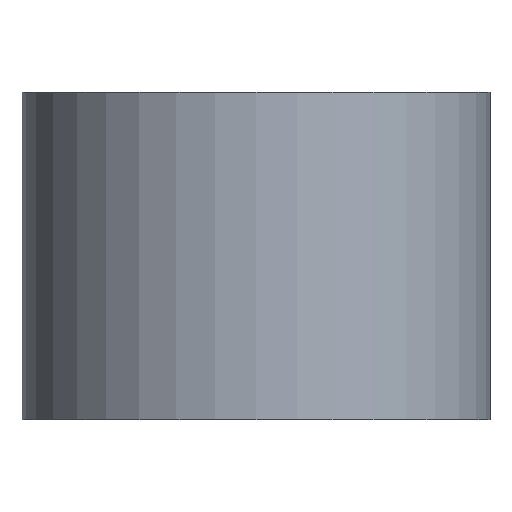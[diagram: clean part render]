
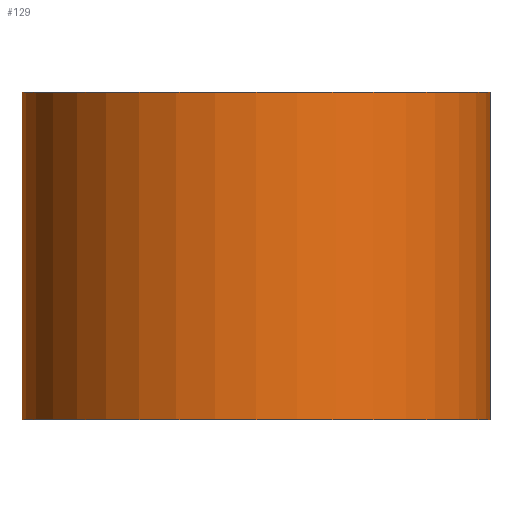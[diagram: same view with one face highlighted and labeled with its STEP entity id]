
A CAD part, front view. The second image highlights one B-rep face of the part: STEP entity #129.
In plain terms, the highlighted cylindrical face has radius 25 mm (diameter 50 mm), a partial arc.
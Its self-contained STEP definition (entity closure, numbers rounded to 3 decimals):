
#102=CYLINDRICAL_SURFACE('',#250,25.);
#108=FACE_OUTER_BOUND('',#150,.T.);
#113=LINE('',#337,#119);
#114=LINE('',#338,#120);
#119=VECTOR('',#295,1.);
#120=VECTOR('',#296,1.);
#129=ADVANCED_FACE('',(#108),#102,.T.);
#150=EDGE_LOOP('',(#183,#184,#185,#186));
#183=ORIENTED_EDGE('',*,*,#215,.F.);
#184=ORIENTED_EDGE('',*,*,#214,.T.);
#185=ORIENTED_EDGE('',*,*,#216,.T.);
#186=ORIENTED_EDGE('',*,*,#199,.F.);
#187=VERTEX_POINT('',#303);
#188=VERTEX_POINT('',#304);
#197=VERTEX_POINT('',#333);
#198=VERTEX_POINT('',#334);
#199=EDGE_CURVE('',#187,#188,#217,.T.);
#214=EDGE_CURVE('',#198,#197,#228,.T.);
#215=EDGE_CURVE('',#198,#187,#113,.T.);
#216=EDGE_CURVE('',#197,#188,#114,.T.);
#217=CIRCLE('',#230,25.);
#228=CIRCLE('',#247,25.);
#230=AXIS2_PLACEMENT_3D('',#302,#253,#254);
#247=AXIS2_PLACEMENT_3D('',#335,#291,#292);
#250=AXIS2_PLACEMENT_3D('',#340,#299,#300);
#253=DIRECTION('',(0.,0.,1.));
#254=DIRECTION('',(0.,1.,0.));
#291=DIRECTION('',(0.,0.,1.));
#292=DIRECTION('',(0.,1.,0.));
#295=DIRECTION('',(0.,0.,1.));
#296=DIRECTION('',(0.,0.,1.));
#299=DIRECTION('',(0.,0.,1.));
#300=DIRECTION('',(0.,-1.,0.));
#302=CARTESIAN_POINT('',(0.,0.,35.));
#303=CARTESIAN_POINT('',(-25.,0.,35.));
#304=CARTESIAN_POINT('',(25.,0.,35.));
#333=CARTESIAN_POINT('',(25.,0.,0.));
#334=CARTESIAN_POINT('',(-25.,0.,0.));
#335=CARTESIAN_POINT('',(0.,0.,0.));
#337=CARTESIAN_POINT('',(-25.,0.,0.));
#338=CARTESIAN_POINT('',(25.,0.,0.));
#340=CARTESIAN_POINT('',(0.,0.,0.));
